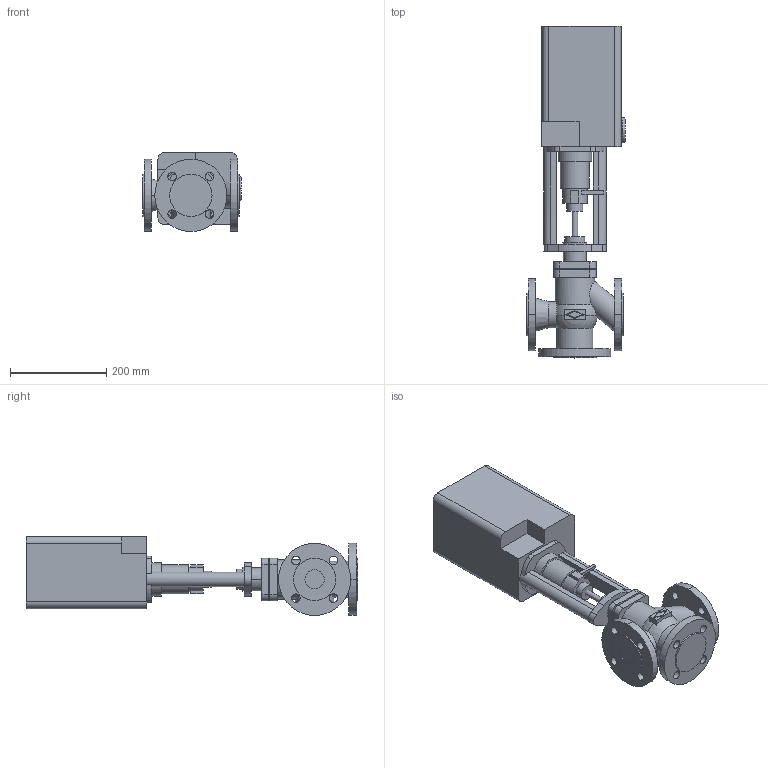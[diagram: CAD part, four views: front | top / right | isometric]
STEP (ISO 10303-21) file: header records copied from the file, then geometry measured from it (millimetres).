
FILE_DESCRIPTION(('OneSpaceDesigner STEP Export'),'2;1');
FILE_NAME('c000002389.stp','2006-09-19T11:57:21',(''),(''),'OneSpace Designer STEP processor for AP214 (Solid Model)','OneSpace Designer 13.20A 18-Aug-2005 (C) CoCreate Software GmbH','');
FILE_SCHEMA(('AUTOMOTIVE_DESIGN { 1 0 10303 214 1 1 1 1 }'));
Length unit declared in the file: millimetre
Products named in the file (2): 1; 2
Bounding box: 204.6 x 689.5 x 164 mm (x, y, z)
Volume: 9080513.6 mm3; surface area: 501094.4 mm2
Topology: 2 solids, 2 shells, 196 faces, 496 edges, 328 vertices
Faces by surface type: cylinder 96, plane 90, sphere 6, cone 2, torus 2
Entity records: 5879 total; most frequent: CARTESIAN_POINT 1367, ORIENTED_EDGE 992, DIRECTION 847, EDGE_CURVE 496, VERTEX_POINT 328, AXIS2_PLACEMENT_3D 296, VECTOR 255, LINE 255
